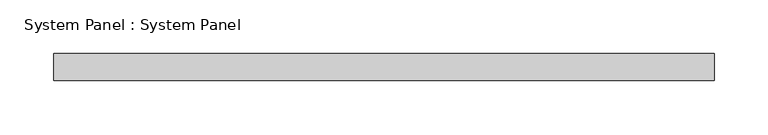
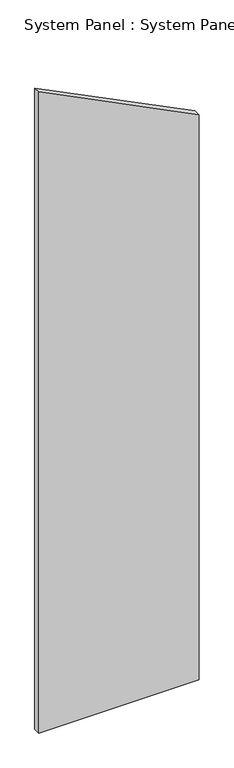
"""IFC4 building model written with IfcOpenShell, lengths in millimetres: plate geometry, System Panel : System Panel."""

import ifcopenshell
import ifcopenshell.guid

model = None  # the IFC model being written
_history = None  # IfcOwnerHistory: only IFC2X3 demands one
_inside = {}  # id of a spatial element -> (the spatial element, [elements in it])
_under = {}  # id of a project, library or spatial element -> (it, [spatial elements below it])
_declared = {}  # id of a project -> (the project, [libraries it declares])
_typed = {}  # id of a type object -> (the type object, [elements of that type])
_made_of = {}  # id of a material, layer set ... -> (it, [elements and type objects made of it])


def new_model(schema):
    """Start an empty IFC model of exactly this schema.

    Asked for "IFC4X3", IfcOpenShell would pick the latest addendum, in which some entities
    have other attributes; the version numbers below select the first issue.
    IFC2X3 requires an IfcOwnerHistory on every rooted entity: one is made here for all.
    """
    global model, _history
    if schema == "IFC4X3":
        model = ifcopenshell.file(schema_version=(4, 3, 0, 0))
    else:
        model = ifcopenshell.file(schema=schema)
    _inside.clear()
    _under.clear()
    _declared.clear()
    _typed.clear()
    _made_of.clear()
    _history = None
    if model.schema == "IFC2X3":
        org = make("IfcOrganization", Name="unknown")
        user = make(
            "IfcPersonAndOrganization",
            ThePerson=make("IfcPerson", FamilyName="unknown"),
            TheOrganization=org,
        )
        app = make(
            "IfcApplication",
            ApplicationDeveloper=org,
            Version="unknown",
            ApplicationFullName="unknown",
            ApplicationIdentifier="unknown",
        )
        _history = make(
            "IfcOwnerHistory",
            OwningUser=user,
            OwningApplication=app,
            ChangeAction="ADDED",
            CreationDate=0,
        )
    return model


def make(cls, **values):
    """One entity of the class cls with the attributes given. An attribute that is None is left unset."""
    return model.create_entity(
        cls, **{name: value for name, value in values.items() if value is not None}
    )


def rooted(cls, **values):
    """An entity with a GlobalId (a new one), such as an element, a storey or a relation."""
    return make(cls, GlobalId=ifcopenshell.guid.new(), OwnerHistory=_history, **values)


def si_unit(unit_type, name, prefix=None):
    """IfcSIUnit, for example si_unit("LENGTHUNIT", "METRE", prefix="MILLI")."""
    return make("IfcSIUnit", UnitType=unit_type, Prefix=prefix, Name=name)


def assignment(units):
    """IfcUnitAssignment: the units of a project."""
    return None if units is None else make("IfcUnitAssignment", Units=units)


def point(xyz):
    """IfcCartesianPoint."""
    return None if xyz is None else make("IfcCartesianPoint", Coordinates=xyz)


def direction(xyz):
    """IfcDirection."""
    return None if xyz is None else make("IfcDirection", DirectionRatios=xyz)


def frame(location, z_axis=None, x_axis=None):
    """IfcAxis2Placement3D, a coordinate frame: its origin and axes. An axis left out is left unset."""
    return make(
        "IfcAxis2Placement3D",
        Location=point(location),
        Axis=direction(z_axis),
        RefDirection=direction(x_axis),
    )


def origin():
    """The frame at (0, 0, 0) with its axes left unset."""
    return frame((0.0, 0.0, 0.0))


def place(relative_to, where):
    """IfcLocalPlacement: puts the frame where relative to a parent placement (None: the world)."""
    return make(
        "IfcLocalPlacement", PlacementRelTo=relative_to, RelativePlacement=where
    )


def context(
    kind, dimensions, precision=None, world=None, true_north=None, identifier=None
):
    """IfcGeometricRepresentationContext, for example the 3D "Model" context."""
    return make(
        "IfcGeometricRepresentationContext",
        ContextIdentifier=identifier,
        ContextType=kind,
        CoordinateSpaceDimension=dimensions,
        Precision=precision,
        WorldCoordinateSystem=world,
        TrueNorth=true_north,
    )


def project(units=None, contexts=None):
    """IfcProject with its units and contexts."""
    return rooted(
        "IfcProject",
        Name="project",
        RepresentationContexts=contexts,
        UnitsInContext=assignment(units),
    )


def spatial(cls, under=None, at=None, **own):
    """A site, building, storey or space (cls), placed at a placement, below another one or the project."""
    s = rooted(cls, ObjectPlacement=at, **own)
    if under is not None:
        _under.setdefault(under.id(), (under, []))[1].append(s)
    return s


def polyline(points):
    """IfcPolyline through the points."""
    return make("IfcPolyline", Points=[point(p) for p in points])


def outline(outer, holes=None, kind="AREA"):
    """IfcArbitraryClosedProfileDef: a profile drawn as a closed curve; with holes, ...WithVoids."""
    if holes is None:
        return make("IfcArbitraryClosedProfileDef", ProfileType=kind, OuterCurve=outer)
    return make(
        "IfcArbitraryProfileDefWithVoids",
        ProfileType=kind,
        OuterCurve=outer,
        InnerCurves=holes,
    )


def extrude(swept, where, along, depth):
    """IfcExtrudedAreaSolid: the profile swept, set in the frame where, extruded along a direction by depth."""
    return make(
        "IfcExtrudedAreaSolid",
        SweptArea=swept,
        Position=where,
        ExtrudedDirection=direction(along),
        Depth=depth,
    )


def shape(context_of_items, identifier, shape_type, items):
    """IfcShapeRepresentation: the items that make up one representation, for example the "Body"."""
    return make(
        "IfcShapeRepresentation",
        ContextOfItems=context_of_items,
        RepresentationIdentifier=identifier,
        RepresentationType=shape_type,
        Items=items,
    )


def source(mapping_origin, context_of_items, identifier, shape_type, items):
    """IfcRepresentationMap: a shape defined once, which mapped items show again and again."""
    return make(
        "IfcRepresentationMap",
        MappingOrigin=mapping_origin,
        MappedRepresentation=shape(context_of_items, identifier, shape_type, items),
    )


def transform(
    local_origin,
    x_axis=None,
    y_axis=None,
    z_axis=None,
    scale=None,
    scale2=None,
    scale3=None,
    uniform=True,
):
    """IfcCartesianTransformationOperator3D, or its non-uniform kind. x_axis, y_axis, z_axis: its Axis1, 2, 3."""
    if uniform:
        return make(
            "IfcCartesianTransformationOperator3D",
            Axis1=direction(x_axis),
            Axis2=direction(y_axis),
            LocalOrigin=point(local_origin),
            Scale=scale,
            Axis3=direction(z_axis),
        )
    return make(
        "IfcCartesianTransformationOperator3DnonUniform",
        Axis1=direction(x_axis),
        Axis2=direction(y_axis),
        LocalOrigin=point(local_origin),
        Scale=scale,
        Axis3=direction(z_axis),
        Scale2=scale2,
        Scale3=scale3,
    )


def mapped(mapping_source, mapping_target):
    """IfcMappedItem: shows the shape of a source again, moved by a transform."""
    return make(
        "IfcMappedItem", MappingSource=mapping_source, MappingTarget=mapping_target
    )


def made_of(thing, what):
    """Note that an element or type object is made of a material, layer set ...; save() writes the relation."""
    if what is not None:
        _made_of.setdefault(what.id(), (what, []))[1].append(thing)
    return thing


def element(
    cls,
    number,
    at=None,
    inside=None,
    cuts=None,
    type_object=None,
    material=None,
    context=None,
    identifier="Body",
    shape_type=None,
    held_by="IfcProductDefinitionShape",
    body=None,
    shapes=None,
    **own,
):
    """One element of the class cls, such as IfcWall. Its Tag is "e" and its number.

    at: its placement. inside: the storey or other place that contains it. cuts: it is an
    opening in that element (IfcRelVoidsElement). A single representation is given by context,
    identifier, shape_type and body (its items); several are given by shapes. held_by: the class
    of the entity that holds the representations. save() writes the other relations.
    """
    e = rooted(cls, Tag="e%d" % number, ObjectPlacement=at, **own)
    if body is not None:
        shapes = [shape(context, identifier, shape_type, body)]
    if shapes is not None:
        e.Representation = make(held_by, Representations=shapes)
    if inside is not None:
        _inside.setdefault(inside.id(), (inside, []))[1].append(e)
    if cuts is not None:
        rooted(
            "IfcRelVoidsElement", RelatingBuildingElement=cuts, RelatedOpeningElement=e
        )
    if type_object is not None:
        _typed.setdefault(type_object.id(), (type_object, []))[1].append(e)
    return made_of(e, material)


def aggregate(whole, parts):
    """IfcRelAggregates: a whole, such as a stair, and the parts it consists of."""
    return rooted("IfcRelAggregates", RelatingObject=whole, RelatedObjects=parts)


def save(model, path):
    """Write the relations noted so far, then the file.

    IfcRelAggregates (storeys below a building ...), IfcRelContainedInSpatialStructure (elements
    in a storey), IfcRelDefinesByType, IfcRelAssociatesMaterial and IfcRelDeclares: one each for
    every whole, place, type object, material and project.
    """
    for whole, parts in _under.values():
        aggregate(whole, parts)
    for where, things in _inside.values():
        rooted(
            "IfcRelContainedInSpatialStructure",
            RelatedElements=things,
            RelatingStructure=where,
        )
    for kind, things in _typed.values():
        rooted("IfcRelDefinesByType", RelatedObjects=things, RelatingType=kind)
    for what, things in _made_of.values():
        rooted("IfcRelAssociatesMaterial", RelatedObjects=things, RelatingMaterial=what)
    for by, libraries in _declared.values():
        rooted("IfcRelDeclares", RelatingContext=by, RelatedDefinitions=libraries)
    model.write(path)


def system_panel_system_panel_e0f36e76(model_context):
    return source(origin(), model_context, "Body", "SweptSolid", [
        extrude(outline(polyline([(0.0, 307.975), (2292.35, 307.975), (2600.325, -307.975), (0.0, -307.975), (0.0, 307.975)])), frame((0.0, 19.05, 0.0), z_axis=(0.0, 1.0, 0.0), x_axis=(0.0, 0.0, 1.0)), (0.0, 0.0, 1.0), 25.4),
    ])


if __name__ == "__main__":
    model = new_model("IFC4")
    model_context = context("Model", 3, world=origin())
    ifc_project = project(units=[si_unit("LENGTHUNIT", "METRE", prefix="MILLI")], contexts=[model_context])
    site = spatial("IfcSite", under=ifc_project)
    building = spatial("IfcBuilding", under=site)
    placement = place(None, origin())
    system_panel_system_panel_shape = system_panel_system_panel_e0f36e76(model_context)
    element("IfcPlate", 1, ObjectType="System Panel : System Panel", at=placement, inside=building, context=model_context, shape_type="MappedRepresentation", body=[
        mapped(system_panel_system_panel_shape, transform((0.0, 0.0, 0.0), x_axis=(1.0, 0.0, 0.0), y_axis=(0.0, 1.0, 0.0), z_axis=(0.0, 0.0, 1.0))),
    ])
    save(model, "model.ifc")
